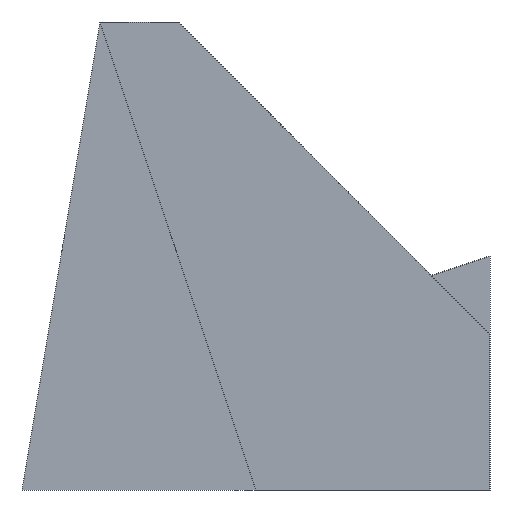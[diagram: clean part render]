
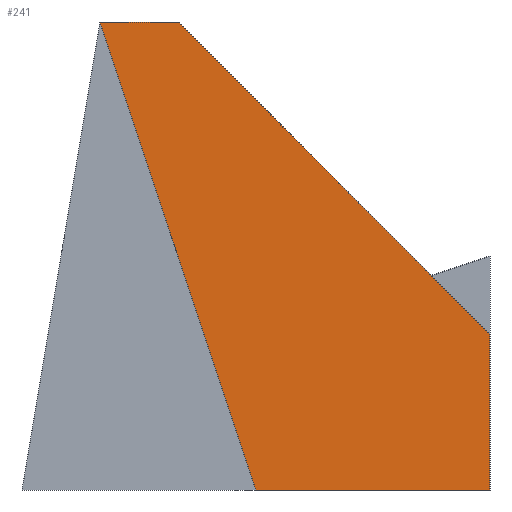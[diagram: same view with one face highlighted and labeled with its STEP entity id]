
A CAD part, left-side view. The second image highlights one B-rep face of the part: STEP entity #241.
In plain terms, the highlighted planar face has unit normal (-1, 0, 0).
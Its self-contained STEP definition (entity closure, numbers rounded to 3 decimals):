
#19=FACE_OUTER_BOUND('',#33,.T.);
#33=EDGE_LOOP('',(#174,#175,#176,#177,#178));
#43=LINE('',#351,#75);
#54=LINE('',#374,#86);
#56=LINE('',#378,#88);
#57=LINE('',#379,#89);
#58=LINE('',#380,#90);
#75=VECTOR('',#289,10.);
#86=VECTOR('',#306,10.);
#88=VECTOR('',#310,10.);
#89=VECTOR('',#311,10.);
#90=VECTOR('',#312,10.);
#107=VERTEX_POINT('',#349);
#108=VERTEX_POINT('',#350);
#116=VERTEX_POINT('',#371);
#117=VERTEX_POINT('',#373);
#118=VERTEX_POINT('',#377);
#127=EDGE_CURVE('',#107,#108,#43,.T.);
#138=EDGE_CURVE('',#117,#116,#54,.T.);
#140=EDGE_CURVE('',#116,#118,#56,.T.);
#141=EDGE_CURVE('',#118,#107,#57,.T.);
#142=EDGE_CURVE('',#108,#117,#58,.T.);
#174=ORIENTED_EDGE('',*,*,#138,.T.);
#175=ORIENTED_EDGE('',*,*,#140,.T.);
#176=ORIENTED_EDGE('',*,*,#141,.T.);
#177=ORIENTED_EDGE('',*,*,#127,.T.);
#178=ORIENTED_EDGE('',*,*,#142,.T.);
#227=PLANE('',#275);
#241=ADVANCED_FACE('',(#19),#227,.T.);
#275=AXIS2_PLACEMENT_3D('',#376,#308,#309);
#289=DIRECTION('',(0.,0.707,0.707));
#306=DIRECTION('',(0.,-0.316,-0.949));
#308=DIRECTION('center_axis',(-1.,0.,0.));
#309=DIRECTION('ref_axis',(0.,0.,1.));
#310=DIRECTION('',(0.,-1.,0.));
#311=DIRECTION('',(0.,0.,1.));
#312=DIRECTION('',(0.,1.,0.));
#349=CARTESIAN_POINT('',(-60.,-30.,-10.));
#350=CARTESIAN_POINT('',(-60.,10.,30.));
#351=CARTESIAN_POINT('',(-60.,-30.,-10.));
#371=CARTESIAN_POINT('',(-60.,0.,-30.));
#373=CARTESIAN_POINT('',(-60.,20.,30.));
#374=CARTESIAN_POINT('',(-60.,0.,-30.));
#376=CARTESIAN_POINT('Origin',(-60.,-5.,0.));
#377=CARTESIAN_POINT('',(-60.,-30.,-30.));
#378=CARTESIAN_POINT('',(-60.,-30.,-30.));
#379=CARTESIAN_POINT('',(-60.,-30.,0.));
#380=CARTESIAN_POINT('',(-60.,20.,30.));
